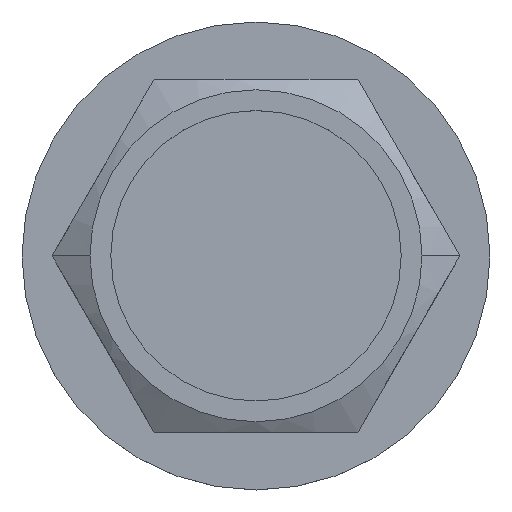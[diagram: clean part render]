
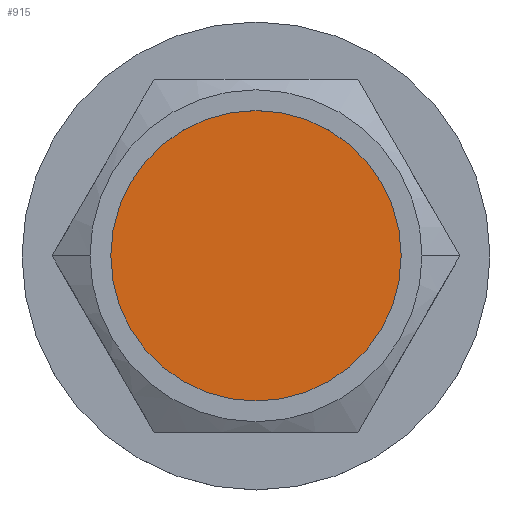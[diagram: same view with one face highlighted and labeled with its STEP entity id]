
A CAD part, top view. The second image highlights one B-rep face of the part: STEP entity #915.
In plain terms, the highlighted planar face has unit normal (0, 0, 1).
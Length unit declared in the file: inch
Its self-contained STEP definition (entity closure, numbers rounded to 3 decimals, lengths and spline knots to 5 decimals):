
#377=CARTESIAN_POINT('',(0.,0.,0.12));
#378=DIRECTION('',(0.,0.,1.));
#379=DIRECTION('',(-1.,0.,0.));
#380=AXIS2_PLACEMENT_3D('',#377,#378,#379);
#382=CARTESIAN_POINT('',(0.,0.,0.12));
#383=DIRECTION('',(0.,0.,1.));
#384=DIRECTION('',(1.,0.,0.));
#385=AXIS2_PLACEMENT_3D('',#382,#383,#384);
#432=CARTESIAN_POINT('',(0.18,0.,0.12));
#433=CARTESIAN_POINT('',(-0.18,0.,0.12));
#434=VERTEX_POINT('',#432);
#435=VERTEX_POINT('',#433);
#906=CARTESIAN_POINT('',(0.,0.,0.12));
#907=DIRECTION('',(0.,0.,-1.));
#908=DIRECTION('',(-1.,0.,0.));
#909=AXIS2_PLACEMENT_3D('',#906,#907,#908);
#910=PLANE('',#909);
#911=ORIENTED_EDGE('',*,*,#900,.F.);
#912=ORIENTED_EDGE('',*,*,#885,.F.);
#913=EDGE_LOOP('',(#911,#912));
#914=FACE_OUTER_BOUND('',#913,.F.);
#381=CIRCLE('',#380,0.18);
#386=CIRCLE('',#385,0.18);
#885=EDGE_CURVE('',#434,#435,#386,.T.);
#900=EDGE_CURVE('',#435,#434,#381,.T.);
#915=ADVANCED_FACE('',(#914),#910,.F.);
